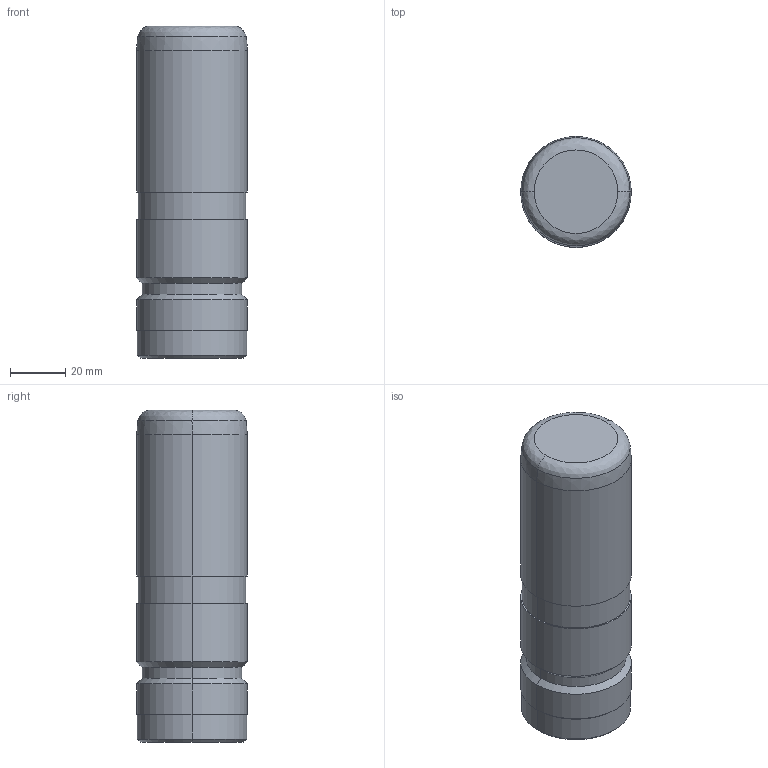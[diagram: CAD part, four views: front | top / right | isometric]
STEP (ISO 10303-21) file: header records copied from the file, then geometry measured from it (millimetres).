
FILE_DESCRIPTION((''),'2;1');
FILE_NAME('','2010-08-29T23:14:41+09:00',('misumi'),(''),'M/STEP i/f 1R2-14','CADmeister v5.1','');
FILE_SCHEMA(('AUTOMOTIVE_DESIGN'));
Length unit declared in the file: millimetre
Products named in the file (1): GPM40-120
Bounding box: 40 x 40 x 120 mm (x, y, z)
Volume: 147575.3 mm3; surface area: 17411.4 mm2
Topology: 1 solids, 1 shells, 27 faces, 52 edges, 30 vertices
Faces by surface type: cylinder 12, cone 6, plane 5, revolution 4
Entity records: 790 total; most frequent: DIRECTION 142, CARTESIAN_POINT 120, ORIENTED_EDGE 104, AXIS2_PLACEMENT_3D 60, EDGE_CURVE 52, CIRCLE 36, VERTEX_POINT 30, EDGE_LOOP 30
